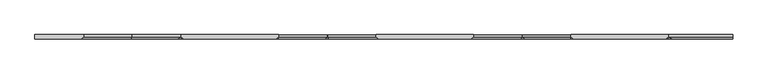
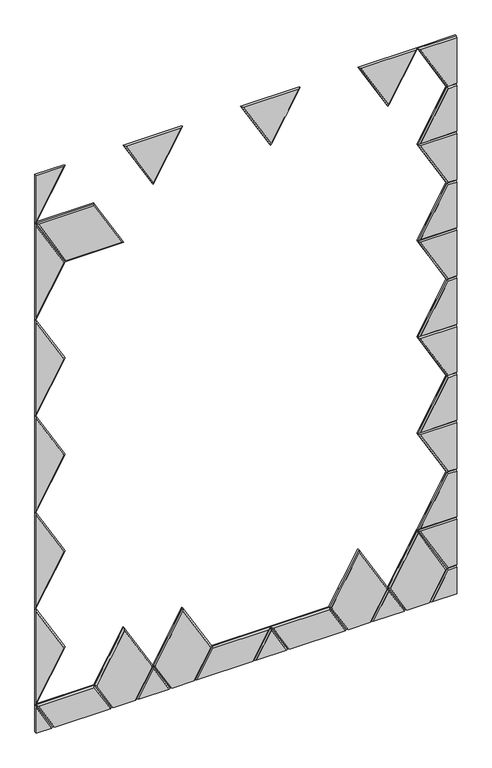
"""IFC4 building model written with IfcOpenShell, lengths in millimetres: proxy geometry, Wall_Cissu 8.3dm."""

from ifc_helpers import new_model, si_unit, origin, place, context, project, spatial, faceted_brep, source, transform, mapped, element, save


def generic_models_e3781ae1(model_context):
    return source(origin(), model_context, "Body", "Brep", [
        faceted_brep([(11474.7011681, 6.0, 2316.0650044), (11335.0011681, 6.0, 2558.0325022), (11614.4011681, 6.0, 2558.0325022), (11754.1011681, 6.0, 2316.0650044), (11474.7011681, 0.0, 2316.0650044), (11754.1011681, 0.0, 2316.0650044), (11614.4011681, 0.0, 2558.0325022), (11335.0011681, 0.0, 2558.0325022), (11610.9370664, -6.0, 2552.0325022), (11345.3934729, -6.0, 2552.0325022), (11478.1652697, -6.0, 2322.0650044), (11743.7088632, -6.0, 2322.0650044)], [[[0, 1, 2, 3]], [[4, 0, 3, 5]], [[5, 3, 2, 6]], [[6, 2, 1, 7]], [[7, 1, 0, 4]], [[8, 9, 10, 11]], [[4, 5, 11, 10]], [[5, 6, 8, 11]], [[6, 7, 9, 8]], [[7, 4, 10, 9]]]),
        faceted_brep([(12592.3011681, 6.0, 2800.0), (12452.6011681, 6.0, 2558.0325022), (12312.9011681, 6.0, 2800.0), (12312.9011681, 0.0, 2800.0), (12452.6011681, 0.0, 2558.0325022), (12592.3011681, 0.0, 2800.0), (12585.3729648, -6.0, 2800.0), (12319.8293713, -6.0, 2800.0), (12452.6011681, -6.0, 2570.0325022)], [[[0, 1, 2]], [[3, 2, 1, 4]], [[4, 1, 0, 5]], [[6, 7, 8]], [[3, 4, 8, 7]], [[4, 5, 6, 8]], [[0, 2, 3, 7, 6, 5]]]),
        faceted_brep([(13151.1011681, 6.0, 2800.0), (13011.4011681, 6.0, 2558.0325022), (12871.7011681, 6.0, 2800.0), (12871.7011681, 0.0, 2800.0), (13011.4011681, 0.0, 2558.0325022), (13151.1011681, 0.0, 2800.0), (13144.1729648, -6.0, 2800.0), (12878.6293713, -6.0, 2800.0), (13011.4011681, -6.0, 2570.0325022)], [[[0, 1, 2]], [[3, 2, 1, 4]], [[4, 1, 0, 5]], [[6, 7, 8]], [[3, 4, 8, 7]], [[4, 5, 6, 8]], [[0, 2, 3, 7, 6, 5]]]),
        faceted_brep([(12033.5011681, 6.0, 2800.0), (11893.8011681, 6.0, 2558.0325022), (11754.1011681, 6.0, 2800.0), (11754.1011681, 0.0, 2800.0), (11893.8011681, 0.0, 2558.0325022), (12033.5011681, 0.0, 2800.0), (12026.5729648, -6.0, 2800.0), (11761.0293713, -6.0, 2800.0), (11893.8011681, -6.0, 2570.0325022)], [[[0, 1, 2]], [[3, 2, 1, 4]], [[4, 1, 0, 5]], [[6, 7, 8]], [[3, 4, 8, 7]], [[4, 5, 6, 8]], [[0, 2, 3, 7, 6, 5]]]),
        faceted_brep([(13335.0011681, 6.0, 138.357524), (13290.8011681, 6.0, 138.357524), (13151.1011681, 6.0, 380.3250218), (13335.0011681, 6.0, 380.3250218), (13335.0011681, 0.0, 380.3250218), (13151.1011681, 0.0, 380.3250218), (13290.8011681, 0.0, 138.357524), (13335.0011681, 0.0, 138.357524), (13335.0011681, -6.0, 144.357524), (13335.0011681, -6.0, 374.3250218), (13161.4934729, -6.0, 374.3250218), (13294.2652697, -6.0, 144.357524)], [[[0, 1, 2, 3]], [[4, 3, 2, 5]], [[5, 2, 1, 6]], [[0, 7, 6, 1]], [[8, 9, 10, 11]], [[9, 4, 5, 10]], [[5, 6, 11, 10]], [[7, 8, 11, 6]], [[0, 3, 4, 9, 8, 7]]]),
        faceted_brep([(13335.0011681, 6.0, 622.2925196), (13290.8011681, 6.0, 622.2925196), (13151.1011681, 6.0, 864.2600175), (13335.0011681, 6.0, 864.2600175), (13335.0011681, 0.0, 864.2600175), (13151.1011681, 0.0, 864.2600175), (13290.8011681, 0.0, 622.2925196), (13335.0011681, 0.0, 622.2925196), (13335.0011681, -6.0, 628.2925196), (13335.0011681, -6.0, 858.2600175), (13161.4934729, -6.0, 858.2600175), (13294.2652697, -6.0, 628.2925196)], [[[0, 1, 2, 3]], [[4, 3, 2, 5]], [[5, 2, 1, 6]], [[0, 7, 6, 1]], [[8, 9, 10, 11]], [[9, 4, 5, 10]], [[5, 6, 11, 10]], [[7, 8, 11, 6]], [[0, 3, 4, 9, 8, 7]]]),
        faceted_brep([(13335.0011681, 6.0, 622.2925196), (13335.0011681, 6.0, 380.3250218), (13151.1011681, 6.0, 380.3250218), (13290.8011681, 6.0, 622.2925196), (13335.0011681, 0.0, 380.3250218), (13151.1011681, 0.0, 380.3250218), (13290.8011681, 0.0, 622.2925196), (13335.0011681, 0.0, 622.2925196), (13335.0011681, -6.0, 616.2925196), (13294.2652697, -6.0, 616.2925196), (13161.4934729, -6.0, 386.3250218), (13335.0011681, -6.0, 386.3250218)], [[[0, 1, 2, 3]], [[4, 5, 2, 1]], [[5, 6, 3, 2]], [[0, 3, 6, 7]], [[8, 9, 10, 11]], [[11, 10, 5, 4]], [[5, 10, 9, 6]], [[7, 6, 9, 8]], [[0, 7, 8, 11, 4, 1]]]),
        faceted_brep([(13335.0011681, 6.0, 1106.2275153), (13290.8011681, 6.0, 1106.2275153), (13151.1011681, 6.0, 1348.1950131), (13335.0011681, 6.0, 1348.1950131), (13335.0011681, 0.0, 1348.1950131), (13151.1011681, 0.0, 1348.1950131), (13290.8011681, 0.0, 1106.2275153), (13335.0011681, 0.0, 1106.2275153), (13335.0011681, -6.0, 1112.2275153), (13335.0011681, -6.0, 1342.1950131), (13161.4934729, -6.0, 1342.1950131), (13294.2652697, -6.0, 1112.2275153)], [[[0, 1, 2, 3]], [[4, 3, 2, 5]], [[5, 2, 1, 6]], [[0, 7, 6, 1]], [[8, 9, 10, 11]], [[9, 4, 5, 10]], [[5, 6, 11, 10]], [[7, 8, 11, 6]], [[0, 3, 4, 9, 8, 7]]]),
        faceted_brep([(13335.0011681, 6.0, 1106.2275153), (13335.0011681, 6.0, 864.2600175), (13151.1011681, 6.0, 864.2600175), (13290.8011681, 6.0, 1106.2275153), (13335.0011681, 0.0, 864.2600175), (13151.1011681, 0.0, 864.2600175), (13290.8011681, 0.0, 1106.2275153), (13335.0011681, 0.0, 1106.2275153), (13335.0011681, -6.0, 1100.2275153), (13294.2652697, -6.0, 1100.2275153), (13161.4934729, -6.0, 870.2600175), (13335.0011681, -6.0, 870.2600175)], [[[0, 1, 2, 3]], [[4, 5, 2, 1]], [[5, 6, 3, 2]], [[0, 3, 6, 7]], [[8, 9, 10, 11]], [[11, 10, 5, 4]], [[5, 10, 9, 6]], [[7, 6, 9, 8]], [[0, 7, 8, 11, 4, 1]]]),
        faceted_brep([(13335.0011681, 6.0, 1590.1625109), (13290.8011681, 6.0, 1590.1625109), (13151.1011681, 6.0, 1832.1300087), (13335.0011681, 6.0, 1832.1300087), (13335.0011681, 0.0, 1832.1300087), (13151.1011681, 0.0, 1832.1300087), (13290.8011681, 0.0, 1590.1625109), (13335.0011681, 0.0, 1590.1625109), (13335.0011681, -6.0, 1596.1625109), (13335.0011681, -6.0, 1826.1300087), (13161.4934729, -6.0, 1826.1300087), (13294.2652697, -6.0, 1596.1625109)], [[[0, 1, 2, 3]], [[4, 3, 2, 5]], [[5, 2, 1, 6]], [[0, 7, 6, 1]], [[8, 9, 10, 11]], [[9, 4, 5, 10]], [[5, 6, 11, 10]], [[7, 8, 11, 6]], [[0, 3, 4, 9, 8, 7]]]),
        faceted_brep([(13335.0011681, 6.0, 1590.1625109), (13335.0011681, 6.0, 1348.1950131), (13151.1011681, 6.0, 1348.1950131), (13290.8011681, 6.0, 1590.1625109), (13335.0011681, 0.0, 1348.1950131), (13151.1011681, 0.0, 1348.1950131), (13290.8011681, 0.0, 1590.1625109), (13335.0011681, 0.0, 1590.1625109), (13335.0011681, -6.0, 1584.1625109), (13294.2652697, -6.0, 1584.1625109), (13161.4934729, -6.0, 1354.1950131), (13335.0011681, -6.0, 1354.1950131)], [[[0, 1, 2, 3]], [[4, 5, 2, 1]], [[5, 6, 3, 2]], [[0, 3, 6, 7]], [[8, 9, 10, 11]], [[11, 10, 5, 4]], [[5, 10, 9, 6]], [[7, 6, 9, 8]], [[0, 7, 8, 11, 4, 1]]]),
        faceted_brep([(13335.0011681, 6.0, 2074.0975065), (13290.8011681, 6.0, 2074.0975065), (13151.1011681, 6.0, 2316.0650044), (13335.0011681, 6.0, 2316.0650044), (13335.0011681, 0.0, 2316.0650044), (13151.1011681, 0.0, 2316.0650044), (13290.8011681, 0.0, 2074.0975065), (13335.0011681, 0.0, 2074.0975065), (13335.0011681, -6.0, 2080.0975065), (13335.0011681, -6.0, 2310.0650044), (13161.4934729, -6.0, 2310.0650044), (13294.2652697, -6.0, 2080.0975065)], [[[0, 1, 2, 3]], [[4, 3, 2, 5]], [[5, 2, 1, 6]], [[0, 7, 6, 1]], [[8, 9, 10, 11]], [[9, 4, 5, 10]], [[5, 6, 11, 10]], [[7, 8, 11, 6]], [[0, 3, 4, 9, 8, 7]]]),
        faceted_brep([(13335.0011681, 6.0, 2074.0975065), (13335.0011681, 6.0, 1832.1300087), (13151.1011681, 6.0, 1832.1300087), (13290.8011681, 6.0, 2074.0975065), (13335.0011681, 0.0, 1832.1300087), (13151.1011681, 0.0, 1832.1300087), (13290.8011681, 0.0, 2074.0975065), (13335.0011681, 0.0, 2074.0975065), (13335.0011681, -6.0, 2068.0975065), (13294.2652697, -6.0, 2068.0975065), (13161.4934729, -6.0, 1838.1300087), (13335.0011681, -6.0, 1838.1300087)], [[[0, 1, 2, 3]], [[4, 5, 2, 1]], [[5, 6, 3, 2]], [[0, 3, 6, 7]], [[8, 9, 10, 11]], [[11, 10, 5, 4]], [[5, 10, 9, 6]], [[7, 6, 9, 8]], [[0, 7, 8, 11, 4, 1]]]),
        faceted_brep([(13335.0011681, 6.0, 2558.0325022), (13290.8011681, 6.0, 2558.0325022), (13151.1011681, 6.0, 2800.0), (13335.0011681, 6.0, 2800.0), (13335.0011681, 0.0, 2800.0), (13151.1011681, 0.0, 2800.0), (13290.8011681, 0.0, 2558.0325022), (13335.0011681, 0.0, 2558.0325022), (13335.0011681, -6.0, 2564.0325022), (13335.0011681, -6.0, 2794.0), (13161.4934729, -6.0, 2794.0), (13294.2652697, -6.0, 2564.0325022)], [[[0, 1, 2, 3]], [[4, 3, 2, 5]], [[5, 2, 1, 6]], [[0, 7, 6, 1]], [[8, 9, 10, 11]], [[9, 4, 5, 10]], [[5, 6, 11, 10]], [[7, 8, 11, 6]], [[0, 3, 4, 9, 8, 7]]]),
        faceted_brep([(13335.0011681, 6.0, 2558.0325022), (13335.0011681, 6.0, 2316.0650044), (13151.1011681, 6.0, 2316.0650044), (13290.8011681, 6.0, 2558.0325022), (13335.0011681, 0.0, 2316.0650044), (13151.1011681, 0.0, 2316.0650044), (13290.8011681, 0.0, 2558.0325022), (13335.0011681, 0.0, 2558.0325022), (13335.0011681, -6.0, 2552.0325022), (13294.2652697, -6.0, 2552.0325022), (13161.4934729, -6.0, 2322.0650044), (13335.0011681, -6.0, 2322.0650044)], [[[0, 1, 2, 3]], [[4, 5, 2, 1]], [[5, 6, 3, 2]], [[0, 3, 6, 7]], [[8, 9, 10, 11]], [[11, 10, 5, 4]], [[5, 10, 9, 6]], [[7, 6, 9, 8]], [[0, 7, 8, 11, 4, 1]]]),
        faceted_brep([(12372.7204143, 6.0, 0.0), (12452.6011681, 6.0, 138.357524), (12532.4819218, 6.0, 0.0), (12532.4819218, 0.0, 0.0), (12452.6011681, 0.0, 138.357524), (12372.7204143, 0.0, 0.0), (12379.6486176, -6.0, 0.0), (12525.5537186, -6.0, 0.0), (12452.6011681, -6.0, 126.357524)], [[[0, 1, 2]], [[3, 2, 1, 4]], [[0, 5, 4, 1]], [[6, 7, 8]], [[7, 3, 4, 8]], [[5, 6, 8, 4]], [[0, 2, 3, 7, 6, 5]]]),
        faceted_brep([(12931.5204143, 6.0, 0.0), (13011.4011681, 6.0, 138.357524), (13091.2819218, 6.0, 0.0), (13091.2819218, 0.0, 0.0), (13011.4011681, 0.0, 138.357524), (12931.5204143, 0.0, 0.0), (12938.4486176, -6.0, 0.0), (13084.3537186, -6.0, 0.0), (13011.4011681, -6.0, 126.357524)], [[[0, 1, 2]], [[3, 2, 1, 4]], [[0, 5, 4, 1]], [[6, 7, 8]], [[7, 3, 4, 8]], [[5, 6, 8, 4]], [[0, 2, 3, 7, 6, 5]]]),
        faceted_brep([(12931.5204143, 6.0, 0.0), (12811.8819218, 6.0, 0.0), (12732.0011681, 6.0, 138.357524), (12871.7011681, 6.0, 380.3250218), (13011.4011681, 6.0, 138.357524), (12732.0011681, 0.0, 138.357524), (12871.7011681, 0.0, 380.3250218), (13011.4011681, 0.0, 138.357524), (12931.5204143, 0.0, 0.0), (12811.8819218, 0.0, 0.0), (12924.5922111, -6.0, 0.0), (13004.4729648, -6.0, 138.357524), (12871.7011681, -6.0, 368.3250218), (12738.9293713, -6.0, 138.357524), (12818.810125, -6.0, 0.0)], [[[0, 1, 2, 3, 4]], [[5, 6, 3, 2]], [[6, 7, 4, 3]], [[0, 4, 7, 8]], [[9, 5, 2, 1]], [[10, 11, 12, 13, 14]], [[5, 13, 12, 6]], [[6, 12, 11, 7]], [[8, 7, 11, 10]], [[14, 13, 5, 9]], [[0, 8, 10, 14, 9, 1]]]),
        faceted_brep([(12532.4819218, 6.0, 0.0), (12452.6011681, 6.0, 138.357524), (12732.0011681, 6.0, 138.357524), (12811.8819218, 6.0, 0.0), (12811.8819218, 0.0, 0.0), (12732.0011681, 0.0, 138.357524), (12452.6011681, 0.0, 138.357524), (12532.4819218, 0.0, 0.0), (12539.410125, -6.0, 0.0), (12804.9537186, -6.0, 0.0), (12728.5370664, -6.0, 132.357524), (12462.9934729, -6.0, 132.357524)], [[[0, 1, 2, 3]], [[4, 3, 2, 5]], [[5, 2, 1, 6]], [[0, 7, 6, 1]], [[8, 9, 10, 11]], [[9, 4, 5, 10]], [[5, 6, 11, 10]], [[7, 8, 11, 6]], [[0, 3, 4, 9, 8, 7]]]),
        faceted_brep([(13091.2819218, 6.0, 0.0), (13011.4011681, 6.0, 138.357524), (13151.1011681, 6.0, 380.3250218), (13290.8011681, 6.0, 138.357524), (13210.9204143, 6.0, 0.0), (13290.8011681, 0.0, 138.357524), (13151.1011681, 0.0, 380.3250218), (13011.4011681, 0.0, 138.357524), (13091.2819218, 0.0, 0.0), (13210.9204143, 0.0, 0.0), (13098.210125, -6.0, 0.0), (13203.9922111, -6.0, 0.0), (13283.8729648, -6.0, 138.357524), (13151.1011681, -6.0, 368.3250218), (13018.3293713, -6.0, 138.357524)], [[[0, 1, 2, 3, 4]], [[5, 3, 2, 6]], [[6, 2, 1, 7]], [[0, 8, 7, 1]], [[9, 4, 3, 5]], [[10, 11, 12, 13, 14]], [[5, 6, 13, 12]], [[6, 7, 14, 13]], [[8, 10, 14, 7]], [[11, 9, 5, 12]], [[0, 4, 9, 11, 10, 8]]]),
        faceted_brep([(11813.9204143, 6.0, 0.0), (11893.8011681, 6.0, 138.357524), (11973.6819218, 6.0, 0.0), (11973.6819218, 0.0, 0.0), (11893.8011681, 0.0, 138.357524), (11813.9204143, 0.0, 0.0), (11820.8486176, -6.0, 0.0), (11966.7537186, -6.0, 0.0), (11893.8011681, -6.0, 126.357524)], [[[0, 1, 2]], [[3, 2, 1, 4]], [[0, 5, 4, 1]], [[6, 7, 8]], [[7, 3, 4, 8]], [[5, 6, 8, 4]], [[0, 2, 3, 7, 6, 5]]]),
        faceted_brep([(11813.9204143, 6.0, 0.0), (11694.2819218, 6.0, 0.0), (11614.4011681, 6.0, 138.357524), (11754.1011681, 6.0, 380.3250218), (11893.8011681, 6.0, 138.357524), (11614.4011681, 0.0, 138.357524), (11754.1011681, 0.0, 380.3250218), (11893.8011681, 0.0, 138.357524), (11813.9204143, 0.0, 0.0), (11694.2819218, 0.0, 0.0), (11806.9922111, -6.0, 0.0), (11886.8729648, -6.0, 138.357524), (11754.1011681, -6.0, 368.3250218), (11621.3293713, -6.0, 138.357524), (11701.210125, -6.0, 0.0)], [[[0, 1, 2, 3, 4]], [[5, 6, 3, 2]], [[6, 7, 4, 3]], [[0, 4, 7, 8]], [[9, 5, 2, 1]], [[10, 11, 12, 13, 14]], [[5, 13, 12, 6]], [[6, 12, 11, 7]], [[8, 7, 11, 10]], [[14, 13, 5, 9]], [[0, 8, 10, 14, 9, 1]]]),
        faceted_brep([(11414.8819218, 6.0, 0.0), (11335.0011681, 6.0, 138.357524), (11614.4011681, 6.0, 138.357524), (11694.2819218, 6.0, 0.0), (11694.2819218, 0.0, 0.0), (11614.4011681, 0.0, 138.357524), (11335.0011681, 0.0, 138.357524), (11414.8819218, 0.0, 0.0), (11421.810125, -6.0, 0.0), (11687.3537186, -6.0, 0.0), (11610.9370664, -6.0, 132.357524), (11345.3934729, -6.0, 132.357524)], [[[0, 1, 2, 3]], [[4, 3, 2, 5]], [[5, 2, 1, 6]], [[0, 7, 6, 1]], [[8, 9, 10, 11]], [[9, 4, 5, 10]], [[5, 6, 11, 10]], [[7, 8, 11, 6]], [[0, 3, 4, 9, 8, 7]]]),
        faceted_brep([(11973.6819218, 6.0, 0.0), (11893.8011681, 6.0, 138.357524), (12033.5011681, 6.0, 380.3250218), (12173.2011681, 6.0, 138.357524), (12093.3204143, 6.0, 0.0), (12173.2011681, 0.0, 138.357524), (12033.5011681, 0.0, 380.3250218), (11893.8011681, 0.0, 138.357524), (11973.6819218, 0.0, 0.0), (12093.3204143, 0.0, 0.0), (11980.610125, -6.0, 0.0), (12086.3922111, -6.0, 0.0), (12166.2729648, -6.0, 138.357524), (12033.5011681, -6.0, 368.3250218), (11900.7293713, -6.0, 138.357524)], [[[0, 1, 2, 3, 4]], [[5, 3, 2, 6]], [[6, 2, 1, 7]], [[0, 8, 7, 1]], [[9, 4, 3, 5]], [[10, 11, 12, 13, 14]], [[5, 6, 13, 12]], [[6, 7, 14, 13]], [[8, 10, 14, 7]], [[11, 9, 5, 12]], [[0, 4, 9, 11, 10, 8]]]),
        faceted_brep([(12372.7204143, 6.0, 0.0), (12093.3204143, 6.0, 0.0), (12173.2011681, 6.0, 138.357524), (12452.6011681, 6.0, 138.357524), (12093.3204143, 0.0, 0.0), (12173.2011681, 0.0, 138.357524), (12452.6011681, 0.0, 138.357524), (12372.7204143, 0.0, 0.0), (12365.7922111, -6.0, 0.0), (12442.2088632, -6.0, 132.357524), (12176.6652697, -6.0, 132.357524), (12100.2486176, -6.0, 0.0)], [[[0, 1, 2, 3]], [[4, 5, 2, 1]], [[5, 6, 3, 2]], [[0, 3, 6, 7]], [[8, 9, 10, 11]], [[11, 10, 5, 4]], [[5, 10, 9, 6]], [[7, 6, 9, 8]], [[0, 7, 8, 11, 4, 1]]]),
        faceted_brep([(13335.0011681, 6.0, 0.0), (13210.9204143, 6.0, 0.0), (13290.8011681, 6.0, 138.357524), (13335.0011681, 6.0, 138.357524), (13210.9204143, 0.0, 0.0), (13290.8011681, 0.0, 138.357524), (13335.0011681, 0.0, 138.357524), (13335.0011681, -6.0, 0.0), (13335.0011681, -6.0, 132.357524), (13294.2652697, -6.0, 132.357524), (13217.8486176, -6.0, 0.0)], [[[0, 1, 2, 3]], [[4, 5, 2, 1]], [[3, 2, 5, 6]], [[7, 8, 9, 10]], [[10, 9, 5, 4]], [[6, 5, 9, 8]], [[0, 3, 6, 8, 7]], [[0, 7, 10, 4, 1]]]),
        faceted_brep([(11335.0011681, 6.0, 2558.0325022), (11474.7011681, 6.0, 2316.0650044), (11335.0011681, 6.0, 2074.0975065), (11474.7011681, 0.0, 2316.0650044), (11335.0011681, 0.0, 2558.0325022), (11335.0011681, 0.0, 2074.0975065), (11335.0011681, -6.0, 2546.0325022), (11335.0011681, -6.0, 2086.0975065), (11467.7729648, -6.0, 2316.0650044)], [[[0, 1, 2]], [[3, 1, 0, 4]], [[5, 2, 1, 3]], [[6, 7, 8]], [[3, 4, 6, 8]], [[5, 3, 8, 7]], [[0, 2, 5, 7, 6, 4]]]),
        faceted_brep([(11335.0011681, 6.0, 1590.1625109), (11474.7011681, 6.0, 1348.1950131), (11335.0011681, 6.0, 1106.2275153), (11474.7011681, 0.0, 1348.1950131), (11335.0011681, 0.0, 1590.1625109), (11335.0011681, 0.0, 1106.2275153), (11335.0011681, -6.0, 1578.1625109), (11335.0011681, -6.0, 1118.2275153), (11467.7729648, -6.0, 1348.1950131)], [[[0, 1, 2]], [[3, 1, 0, 4]], [[5, 2, 1, 3]], [[6, 7, 8]], [[3, 4, 6, 8]], [[5, 3, 8, 7]], [[0, 2, 5, 7, 6, 4]]]),
        faceted_brep([(11335.0011681, 6.0, 2074.0975065), (11474.7011681, 6.0, 1832.1300087), (11335.0011681, 6.0, 1590.1625109), (11474.7011681, 0.0, 1832.1300087), (11335.0011681, 0.0, 2074.0975065), (11335.0011681, 0.0, 1590.1625109), (11335.0011681, -6.0, 2062.0975065), (11335.0011681, -6.0, 1602.1625109), (11467.7729648, -6.0, 1832.1300087)], [[[0, 1, 2]], [[3, 1, 0, 4]], [[5, 2, 1, 3]], [[6, 7, 8]], [[3, 4, 6, 8]], [[5, 3, 8, 7]], [[0, 2, 5, 7, 6, 4]]]),
        faceted_brep([(11335.0011681, 6.0, 622.2925196), (11474.7011681, 6.0, 380.3250218), (11335.0011681, 6.0, 138.357524), (11474.7011681, 0.0, 380.3250218), (11335.0011681, 0.0, 622.2925196), (11335.0011681, 0.0, 138.357524), (11335.0011681, -6.0, 610.2925196), (11335.0011681, -6.0, 150.357524), (11467.7729648, -6.0, 380.3250218)], [[[0, 1, 2]], [[3, 1, 0, 4]], [[5, 2, 1, 3]], [[6, 7, 8]], [[3, 4, 6, 8]], [[5, 3, 8, 7]], [[0, 2, 5, 7, 6, 4]]]),
        faceted_brep([(11335.0011681, 6.0, 1106.2275153), (11474.7011681, 6.0, 864.2600175), (11335.0011681, 6.0, 622.2925196), (11474.7011681, 0.0, 864.2600175), (11335.0011681, 0.0, 1106.2275153), (11335.0011681, 0.0, 622.2925196), (11335.0011681, -6.0, 1094.2275153), (11335.0011681, -6.0, 634.2925196), (11467.7729648, -6.0, 864.2600175)], [[[0, 1, 2]], [[3, 1, 0, 4]], [[5, 2, 1, 3]], [[6, 7, 8]], [[3, 4, 6, 8]], [[5, 3, 8, 7]], [[0, 2, 5, 7, 6, 4]]]),
        faceted_brep([(11335.0011681, 6.0, 2800.0), (11474.7011681, 6.0, 2800.0), (11335.0011681, 6.0, 2558.0325022), (11335.0011681, 0.0, 2558.0325022), (11474.7011681, 0.0, 2800.0), (11335.0011681, -6.0, 2800.0), (11335.0011681, -6.0, 2570.0325022), (11467.7729648, -6.0, 2800.0)], [[[0, 1, 2]], [[3, 2, 1, 4]], [[5, 6, 7]], [[3, 4, 7, 6]], [[5, 7, 4, 1, 0]], [[0, 2, 3, 6, 5]]]),
        faceted_brep([(11335.0011681, 6.0, 138.357524), (11414.8819218, 6.0, 0.0), (11335.0011681, 6.0, 0.0), (11414.8819218, 0.0, 0.0), (11335.0011681, 0.0, 138.357524), (11335.0011681, -6.0, 126.357524), (11335.0011681, -6.0, 0.0), (11407.9537186, -6.0, 0.0)], [[[0, 1, 2]], [[3, 1, 0, 4]], [[5, 6, 7]], [[7, 3, 4, 5]], [[2, 1, 3, 7, 6]], [[0, 2, 6, 5, 4]]]),
    ])


if __name__ == "__main__":
    model = new_model("IFC4")
    model_context = context("Model", 3, world=origin())
    ifc_project = project(units=[si_unit("LENGTHUNIT", "METRE", prefix="MILLI")], contexts=[model_context])
    site = spatial("IfcSite", under=ifc_project)
    building = spatial("IfcBuilding", under=site)
    placement = place(None, origin())
    generic_models_shape = generic_models_e3781ae1(model_context)
    element("IfcBuildingElementProxy", 1, Name="Wall_Cissu 8.3dm", ObjectType="Wall_Cissu 8.3dm", at=placement, inside=building, context=model_context, shape_type="MappedRepresentation", body=[
        mapped(generic_models_shape, transform((0.0, 0.0, 0.0), x_axis=(1.0, 0.0, 0.0), y_axis=(0.0, 1.0, 0.0), z_axis=(0.0, 0.0, 1.0))),
    ])
    save(model, "model.ifc")
